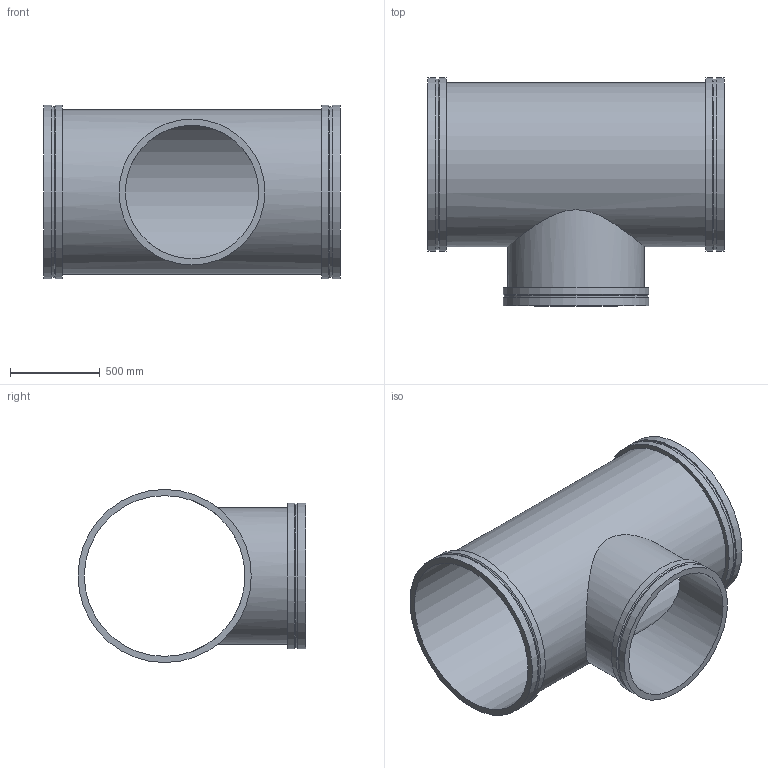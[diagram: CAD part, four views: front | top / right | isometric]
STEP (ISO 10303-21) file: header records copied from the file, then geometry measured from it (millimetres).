
FILE_DESCRIPTION(/* description */ ('VIC REDUCING TEE No W025 VR','CAx-IF Rec.Pracs.---Representation and Presentation of Product Manufacturing Information (PMI)---4.0---2014-10-13'),/* implementation_level */ '2;1');
FILE_NAME(/* name */ 'C:\Users\kkamble\AppData\Roaming\Autodesk\ApplicationPlugins\Back Up\Victaulic_Vic-Ring_Tee Reducing_No W25 VR (AGR)\Victaulic_Vic-Ring_Tee Reducing_No W25 VR (AGR)_36.0x30.0 (900x750).stp',/* time_stamp */ '2020-09-10T11:55:19+05:00',/* author */ ('mchristi'),/* organization */ ('Victaulic'),/* preprocessor_version */ 'ST-DEVELOPER v17.2',/* originating_system */ 'Autodesk Inventor 2019',/* authorisation */ '');
FILE_SCHEMA (('AP242_MANAGED_MODEL_BASED_3D_ENGINEERING_MIM_LF { 1 0 10303 442 1 1 4 }'));
Length unit declared in the file: inch
Products named in the file (1): W25 VR-36.0x30.0
Bounding box: 1651 x 1270 x 965.2 mm (x, y, z)
Volume: 70229046.2 mm3; surface area: 11051748.1 mm2
Topology: 1 solids, 1 shells, 25 faces, 68 edges, 52 vertices
Faces by surface type: cylinder 13, plane 9, cone 3
Full cylindrical faces by diameter (mm): 742.95 x1, 762 x1, 798.322 x1, 812.8 x2, 895.35 x1, 914.4 x1, 950.722 x2, 965.2 x4
Entity records: 1251 total; most frequent: CARTESIAN_POINT 407, DIRECTION 190, ORIENTED_EDGE 136, AXIS2_PLACEMENT_3D 87, EDGE_CURVE 68, VERTEX_POINT 52, CIRCLE 48, EDGE_LOOP 36
